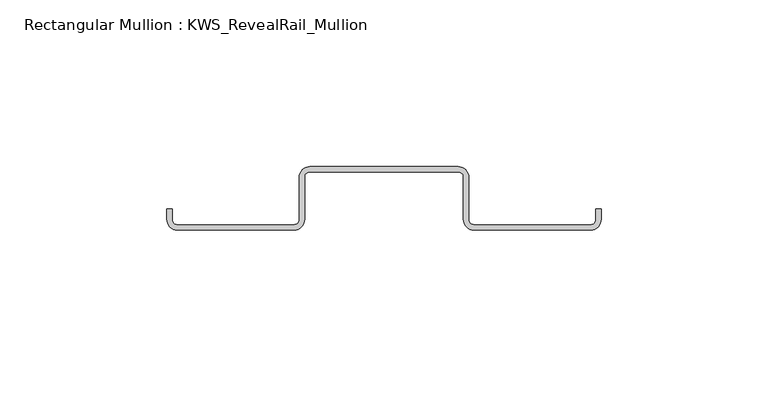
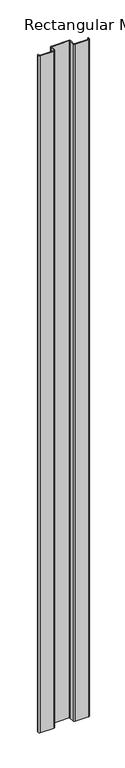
"""IFC4 building model written with IfcOpenShell, lengths in millimetres: member geometry, Rectangular Mullion : KWS_RevealRail_Mullion."""

from ifc_helpers import new_model, si_unit, point, frame, frame_2d, origin, place, context, project, spatial, polyline, circle_curve, trimmed, segment, composite_curve, outline, extrude, source, transform, mapped, element, save


def rectangular_mullion_kws_revealrail_mullion_a2485246(model_context):
    return source(origin(), model_context, "Body", "SweptSolid", [
        extrude(outline(composite_curve([segment(polyline([(-65.0875, -15.8115), (-65.0875, -12.6365), (-63.5, -12.6365), (-63.5, -15.8115)]), True, "CONTINUOUS"), segment(trimmed(circle_curve(frame_2d((-61.9125, -15.8115)), 1.5875), [point((-63.5, -15.8115))], [point((-61.9125, -17.399))], True, "CARTESIAN"), True, "CONTINUOUS"), segment(polyline([(-61.9125, -17.399), (-26.9875, -17.399)]), True, "CONTINUOUS"), segment(trimmed(circle_curve(frame_2d((-26.9875, -15.8115)), 1.5875), [point((-26.9875, -17.399))], [point((-25.4, -15.8115))], True, "CARTESIAN"), True, "CONTINUOUS"), segment(polyline([(-25.4, -15.8115), (-25.4, -3.1115)]), True, "CONTINUOUS"), segment(trimmed(circle_curve(frame_2d((-22.225, -3.1115)), 3.175), [point((-25.4, -3.1115))], [point((-22.225, 0.0635))], False, "CARTESIAN"), True, "CONTINUOUS"), segment(polyline([(-22.225, 0.0635), (22.225, 0.0635)]), True, "CONTINUOUS"), segment(trimmed(circle_curve(frame_2d((22.225, -3.1115)), 3.175), [point((22.225, 0.0635))], [point((25.4, -3.1115))], False, "CARTESIAN"), True, "CONTINUOUS"), segment(polyline([(25.4, -3.1115), (25.4, -15.8115)]), True, "CONTINUOUS"), segment(trimmed(circle_curve(frame_2d((26.9875, -15.8115)), 1.5875), [point((25.4, -15.8115))], [point((26.9875, -17.399))], True, "CARTESIAN"), True, "CONTINUOUS"), segment(polyline([(26.9875, -17.399), (61.9125, -17.399)]), True, "CONTINUOUS"), segment(trimmed(circle_curve(frame_2d((61.9125, -15.8115)), 1.5875), [point((61.9125, -17.399))], [point((63.5, -15.8115))], True, "CARTESIAN"), True, "CONTINUOUS"), segment(polyline([(63.5, -15.8115), (63.5, -12.6365), (65.0875, -12.6365), (65.0875, -15.8115)]), True, "CONTINUOUS"), segment(trimmed(circle_curve(frame_2d((61.9125, -15.8115)), 3.175), [point((65.0875, -15.8115))], [point((61.9125, -18.9865))], False, "CARTESIAN"), True, "CONTINUOUS"), segment(polyline([(61.9125, -18.9865), (26.9875, -18.9865)]), True, "CONTINUOUS"), segment(trimmed(circle_curve(frame_2d((26.9875, -15.8115)), 3.175), [point((26.9875, -18.9865))], [point((23.8125, -15.8115))], False, "CARTESIAN"), True, "CONTINUOUS"), segment(polyline([(23.8125, -15.8115), (23.8125, -3.1115)]), True, "CONTINUOUS"), segment(trimmed(circle_curve(frame_2d((22.225, -3.1115)), 1.5875), [point((23.8125, -3.1115))], [point((22.225, -1.524))], True, "CARTESIAN"), True, "CONTINUOUS"), segment(polyline([(22.225, -1.524), (-22.225, -1.524)]), True, "CONTINUOUS"), segment(trimmed(circle_curve(frame_2d((-22.225, -3.1115)), 1.5875), [point((-22.225, -1.524))], [point((-23.8125, -3.1115))], True, "CARTESIAN"), True, "CONTINUOUS"), segment(polyline([(-23.8125, -3.1115), (-23.8125, -15.8115)]), True, "CONTINUOUS"), segment(trimmed(circle_curve(frame_2d((-26.9875, -15.8115)), 3.175), [point((-23.8125, -15.8115))], [point((-26.9875, -18.9865))], False, "CARTESIAN"), True, "CONTINUOUS"), segment(polyline([(-26.9875, -18.9865), (-61.9125, -18.9865)]), True, "CONTINUOUS"), segment(trimmed(circle_curve(frame_2d((-61.9125, -15.8115)), 3.175), [point((-61.9125, -18.9865))], [point((-65.0875, -15.8115))], False, "CARTESIAN"), True, "CONTINUOUS")], self_intersect=False)), frame((0.0, 0.0, -1828.8), z_axis=(0.0, 0.0, 1.0), x_axis=(1.0, 0.0, 0.0)), (0.0, 0.0, 1.0), 1828.8),
    ])


if __name__ == "__main__":
    model = new_model("IFC4")
    model_context = context("Model", 3, world=origin())
    ifc_project = project(units=[si_unit("LENGTHUNIT", "METRE", prefix="MILLI")], contexts=[model_context])
    site = spatial("IfcSite", under=ifc_project)
    building = spatial("IfcBuilding", under=site)
    placement = place(None, origin())
    rectangular_mullion_kws_revealrail_mullion_shape = rectangular_mullion_kws_revealrail_mullion_a2485246(model_context)
    element("IfcMember", 1, ObjectType="Rectangular Mullion : KWS_RevealRail_Mullion", at=placement, inside=building, context=model_context, shape_type="MappedRepresentation", body=[
        mapped(rectangular_mullion_kws_revealrail_mullion_shape, transform((0.0, 0.0, 0.0), x_axis=(1.0, 0.0, 0.0), y_axis=(0.0, 1.0, 0.0), z_axis=(0.0, 0.0, 1.0))),
    ])
    save(model, "model.ifc")
